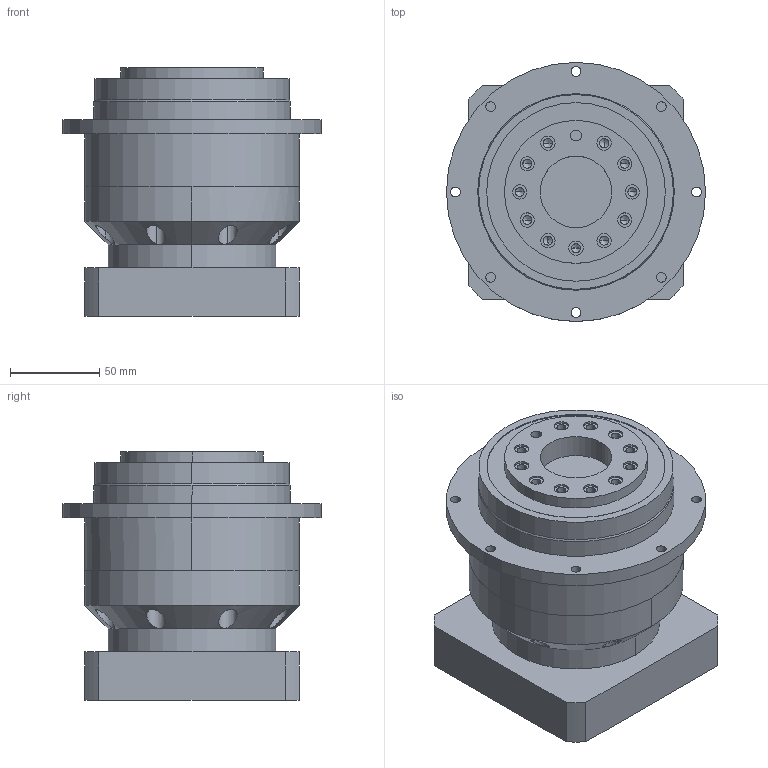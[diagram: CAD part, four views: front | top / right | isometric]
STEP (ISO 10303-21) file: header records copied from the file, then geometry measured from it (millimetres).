
FILE_DESCRIPTION (( 'STEP AP203' ), '1' );
FILE_NAME ('PLX120-L1-22-110-145.STEP', '2022-07-05T08:24:12', ( 'Windows User' ), ( 'P R C' ), 'SwSTEP 2.0', 'SolidWorks 2016', '' );
FILE_SCHEMA (( 'CONFIG_CONTROL_DESIGN' ));
Length unit declared in the file: millimetre
Products named in the file (6): PLX120窣諉啣-梓袧; 囀鞠褒蹟佪-M8x25; 粣創-6009 45x75x16; PLX120-L1-22-110-145; PLX120 内齿圈_一级内齿圈; PLX120 狟屳啣
Assembly tree (5 placements, depth 2):
  PLX120-L1-22-110-145
    PLX120 内齿圈_一级内齿圈
    PLX120 狟屳啣
    PLX120窣諉啣-梓袧
    囀鞠褒蹟佪-M8x25
    粣創-6009 45x75x16
Bounding box: 145 x 145 x 139 mm (x, y, z)
Volume: 1331318.1 mm3; surface area: 200156.1 mm2
Topology: 5 solids, 6 shells, 1121 faces, 3009 edges, 1968 vertices
Faces by surface type: plane 605, bspline 247, cylinder 233, cone 36
Entity records: 45599 total; most frequent: CARTESIAN_POINT 18456, ORIENTED_EDGE 5914, DIRECTION 4834, EDGE_CURVE 2957, VERTEX_POINT 1968, AXIS2_PLACEMENT_3D 1649, LINE 1536, VECTOR 1536
